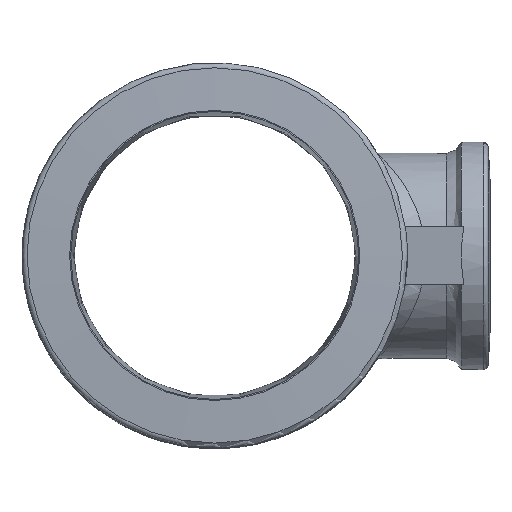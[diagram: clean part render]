
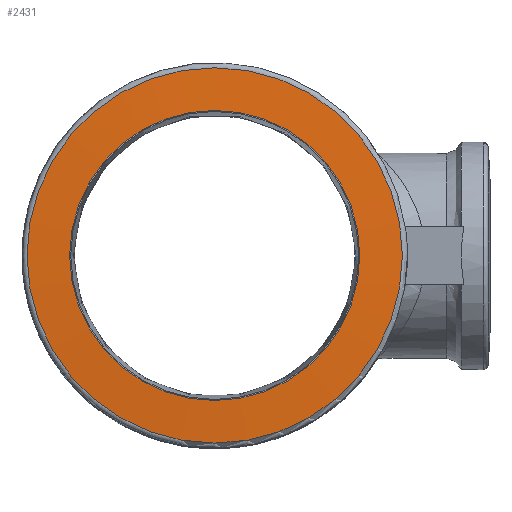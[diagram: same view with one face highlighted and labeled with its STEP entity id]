
A CAD part, top view. The second image highlights one B-rep face of the part: STEP entity #2431.
In plain terms, the highlighted conical face has half-angle 87 degrees and reference radius 31.9 mm.
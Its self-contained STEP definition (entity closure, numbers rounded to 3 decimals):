
#2377=CARTESIAN_POINT('',(27.4,0.,44.0));
#2378=VERTEX_POINT('',#2377);
#2379=CARTESIAN_POINT('',(0.0,0.0,44.0));
#2380=DIRECTION('',(0.0,0.0,-1.0));
#2381=DIRECTION('',(-1.0,0.0,0.0));
#2382=AXIS2_PLACEMENT_3D('',#2379,#2380,#2381);
#2383=CIRCLE('',#2382,27.4);
#2384=EDGE_CURVE('',#2378,#2378,#2383,.T.);
#2412=CARTESIAN_POINT('',(0.0,0.0,43.764));
#2413=DIRECTION('',(0.0,0.0,-1.0));
#2414=DIRECTION('',(-1.0,0.0,0.0));
#2415=AXIS2_PLACEMENT_3D('',#2412,#2413,#2414);
#2416=CONICAL_SURFACE('',#2415,31.9,87.);
#2417=ORIENTED_EDGE('',*,*,#2384,.T.);
#2418=EDGE_LOOP('',(#2417));
#2419=FACE_OUTER_BOUND('',#2418,.T.);
#2420=CARTESIAN_POINT('',(35.452,0.,43.578));
#2421=VERTEX_POINT('',#2420);
#2422=CARTESIAN_POINT('',(0.0,0.,43.578));
#2423=DIRECTION('',(0.0,0.0,-1.0));
#2424=DIRECTION('',(-1.0,0.0,0.0));
#2425=AXIS2_PLACEMENT_3D('',#2422,#2423,#2424);
#2426=CIRCLE('',#2425,35.452);
#2427=EDGE_CURVE('',#2421,#2421,#2426,.T.);
#2428=ORIENTED_EDGE('',*,*,#2427,.F.);
#2429=EDGE_LOOP('',(#2428));
#2430=FACE_BOUND('',#2429,.T.);
#2431=ADVANCED_FACE('',(#2419,#2430),#2416,.T.);
